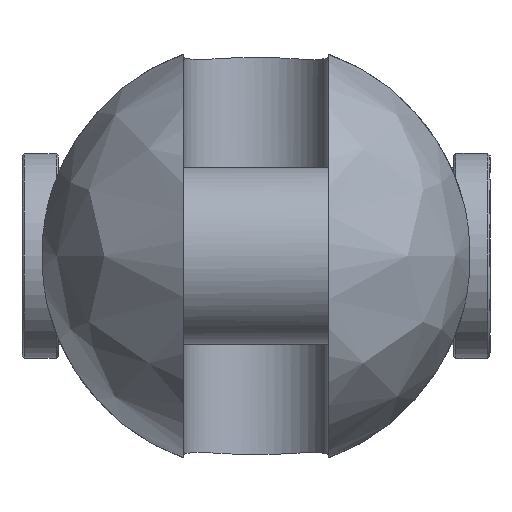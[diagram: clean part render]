
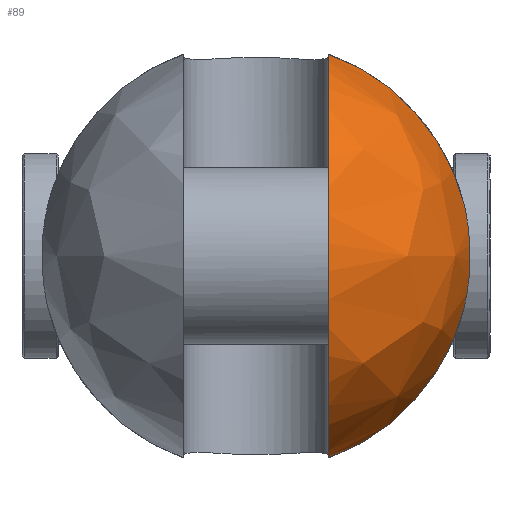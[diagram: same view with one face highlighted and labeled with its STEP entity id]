
A CAD part, left-side view. The second image highlights one B-rep face of the part: STEP entity #89.
In plain terms, the highlighted free-form (B-spline) face has degree [2, 2] with [9, 5] control points.
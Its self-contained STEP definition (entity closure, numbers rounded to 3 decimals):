
#89=ADVANCED_FACE('',(#164),#1306,.T.);
#164=FACE_OUTER_BOUND('',#249,.T.);
#249=EDGE_LOOP('',(#583,#584,#585,#586));
#583=ORIENTED_EDGE('',*,*,#811,.T.);
#584=ORIENTED_EDGE('',*,*,#835,.F.);
#585=ORIENTED_EDGE('',*,*,#847,.T.);
#586=ORIENTED_EDGE('',*,*,#827,.F.);
#811=EDGE_CURVE('',#1192,#1191,#1045,.T.);
#827=EDGE_CURVE('',#1192,#1204,#1055,.T.);
#835=EDGE_CURVE('',#1211,#1191,#1056,.T.);
#847=EDGE_CURVE('',#1211,#1204,#963,.T.);
#963=B_SPLINE_CURVE_WITH_KNOTS('',3,(#3144,#3145,#3146,#3147,#3148,#3149,
#3150,#3151,#3152,#3153,#3154,#3155,#3156,#3157),.UNSPECIFIED.,.F.,.F.,
(4,2,2,2,2,2,4),(0.,1.446,6.787,12.128,
17.469,22.81,24.256),.UNSPECIFIED.);
#1045=(
BOUNDED_CURVE()
B_SPLINE_CURVE(2,(#2920,#2921,#2922,#2923,#2924),.UNSPECIFIED.,.F.,.F.)
B_SPLINE_CURVE_WITH_KNOTS((3,2,3),(-138.836,-69.418,
0.),.UNSPECIFIED.)
CURVE()
GEOMETRIC_REPRESENTATION_ITEM()
RATIONAL_B_SPLINE_CURVE((1.,0.707,1.,0.707,1.))
REPRESENTATION_ITEM('')
);
#1055=(
BOUNDED_CURVE()
B_SPLINE_CURVE(2,(#3014,#3015,#3016),.UNSPECIFIED.,.F.,.F.)
B_SPLINE_CURVE_WITH_KNOTS((3,3),(0.,45.894),.UNSPECIFIED.)
CURVE()
GEOMETRIC_REPRESENTATION_ITEM()
RATIONAL_B_SPLINE_CURVE((1.,0.883,1.))
REPRESENTATION_ITEM('')
);
#1056=(
BOUNDED_CURVE()
B_SPLINE_CURVE(2,(#3071,#3072,#3073),.UNSPECIFIED.,.F.,.F.)
B_SPLINE_CURVE_WITH_KNOTS((3,3),(0.,45.894),.UNSPECIFIED.)
CURVE()
GEOMETRIC_REPRESENTATION_ITEM()
RATIONAL_B_SPLINE_CURVE((1.,0.883,1.))
REPRESENTATION_ITEM('')
);
#1191=VERTEX_POINT('',#2837);
#1192=VERTEX_POINT('',#2838);
#1204=VERTEX_POINT('',#2850);
#1211=VERTEX_POINT('',#2857);
#1306=(
BOUNDED_SURFACE()
B_SPLINE_SURFACE(2,2,((#2445,#2446,#2447,#2448,#2449),(#2450,#2451,#2452,
#2453,#2454),(#2455,#2456,#2457,#2458,#2459),(#2460,#2461,#2462,#2463,#2464),
(#2465,#2466,#2467,#2468,#2469),(#2470,#2471,#2472,#2473,#2474),(#2475,
#2476,#2477,#2478,#2479),(#2480,#2481,#2482,#2483,#2484),(#2485,#2486,#2487,
#2488,#2489)),.UNSPECIFIED.,.T.,.F.,.F.)
B_SPLINE_SURFACE_WITH_KNOTS((3,2,2,2,3),(3,2,3),(0.,73.827,147.655,
221.482,295.31),(0.,73.827,147.655),
 .UNSPECIFIED.)
GEOMETRIC_REPRESENTATION_ITEM()
RATIONAL_B_SPLINE_SURFACE(((1.,0.707,1.,0.707,1.),
(0.707,0.5,0.707,0.5,0.707),(1.,0.707,
1.,0.707,1.),(0.707,0.5,0.707,0.5,0.707),
(1.,0.707,1.,0.707,1.),(0.707,0.5,0.707,
0.5,0.707),(1.,0.707,1.,0.707,1.),(0.707,
0.5,0.707,0.5,0.707),(1.,0.707,1.,0.707,
1.)))
REPRESENTATION_ITEM('')
SURFACE()
);
#2445=CARTESIAN_POINT('',(-67.5,0.,0.));
#2446=CARTESIAN_POINT('',(-67.5,47.,0.));
#2447=CARTESIAN_POINT('',(-20.5,47.,0.));
#2448=CARTESIAN_POINT('',(26.5,47.,0.));
#2449=CARTESIAN_POINT('',(26.5,0.,0.));
#2450=CARTESIAN_POINT('',(-67.5,0.,0.));
#2451=CARTESIAN_POINT('',(-67.5,47.,47.));
#2452=CARTESIAN_POINT('',(-20.5,47.,47.));
#2453=CARTESIAN_POINT('',(26.5,47.,47.));
#2454=CARTESIAN_POINT('',(26.5,0.,0.));
#2455=CARTESIAN_POINT('',(-67.5,0.,0.));
#2456=CARTESIAN_POINT('',(-67.5,0.,47.));
#2457=CARTESIAN_POINT('',(-20.5,0.,47.));
#2458=CARTESIAN_POINT('',(26.5,0.,47.));
#2459=CARTESIAN_POINT('',(26.5,0.,0.));
#2460=CARTESIAN_POINT('',(-67.5,0.,0.));
#2461=CARTESIAN_POINT('',(-67.5,-47.,47.));
#2462=CARTESIAN_POINT('',(-20.5,-47.,47.));
#2463=CARTESIAN_POINT('',(26.5,-47.,47.));
#2464=CARTESIAN_POINT('',(26.5,0.,0.));
#2465=CARTESIAN_POINT('',(-67.5,0.,0.));
#2466=CARTESIAN_POINT('',(-67.5,-47.,0.));
#2467=CARTESIAN_POINT('',(-20.5,-47.,0.));
#2468=CARTESIAN_POINT('',(26.5,-47.,0.));
#2469=CARTESIAN_POINT('',(26.5,0.,0.));
#2470=CARTESIAN_POINT('',(-67.5,0.,0.));
#2471=CARTESIAN_POINT('',(-67.5,-47.,-47.));
#2472=CARTESIAN_POINT('',(-20.5,-47.,-47.));
#2473=CARTESIAN_POINT('',(26.5,-47.,-47.));
#2474=CARTESIAN_POINT('',(26.5,0.,0.));
#2475=CARTESIAN_POINT('',(-67.5,0.,0.));
#2476=CARTESIAN_POINT('',(-67.5,0.,-47.));
#2477=CARTESIAN_POINT('',(-20.5,0.,-47.));
#2478=CARTESIAN_POINT('',(26.5,0.,-47.));
#2479=CARTESIAN_POINT('',(26.5,0.,0.));
#2480=CARTESIAN_POINT('',(-67.5,0.,0.));
#2481=CARTESIAN_POINT('',(-67.5,47.,-47.));
#2482=CARTESIAN_POINT('',(-20.5,47.,-47.));
#2483=CARTESIAN_POINT('',(26.5,47.,-47.));
#2484=CARTESIAN_POINT('',(26.5,0.,0.));
#2485=CARTESIAN_POINT('',(-67.5,0.,0.));
#2486=CARTESIAN_POINT('',(-67.5,47.,0.));
#2487=CARTESIAN_POINT('',(-20.5,47.,0.));
#2488=CARTESIAN_POINT('',(26.5,47.,0.));
#2489=CARTESIAN_POINT('',(26.5,0.,0.));
#2837=CARTESIAN_POINT('',(-20.5,-16.,-44.193));
#2838=CARTESIAN_POINT('',(-20.5,-16.,44.193));
#2850=CARTESIAN_POINT('',(-20.5,-45.574,11.489));
#2857=CARTESIAN_POINT('',(-20.5,-45.574,-11.489));
#2920=CARTESIAN_POINT('',(-20.5,-16.,44.193));
#2921=CARTESIAN_POINT('',(-64.693,-16.,44.193));
#2922=CARTESIAN_POINT('',(-64.693,-16.,0.));
#2923=CARTESIAN_POINT('',(-64.693,-16.,-44.193));
#2924=CARTESIAN_POINT('',(-20.5,-16.,-44.193));
#3014=CARTESIAN_POINT('',(-20.5,-16.,44.193));
#3015=CARTESIAN_POINT('',(-20.5,-39.472,35.695));
#3016=CARTESIAN_POINT('',(-20.5,-45.574,11.489));
#3071=CARTESIAN_POINT('',(-20.5,-45.574,-11.489));
#3072=CARTESIAN_POINT('',(-20.5,-39.472,-35.695));
#3073=CARTESIAN_POINT('',(-20.5,-16.,-44.193));
#3144=CARTESIAN_POINT('',(-20.5,-45.574,-11.489));
#3145=CARTESIAN_POINT('',(-20.733,-45.679,-11.073));
#3146=CARTESIAN_POINT('',(-20.954,-45.778,-10.65));
#3147=CARTESIAN_POINT('',(-21.93,-46.214,-8.628));
#3148=CARTESIAN_POINT('',(-22.523,-46.475,-6.936));
#3149=CARTESIAN_POINT('',(-23.308,-46.82,-3.482));
#3150=CARTESIAN_POINT('',(-23.5,-46.904,-1.721));
#3151=CARTESIAN_POINT('',(-23.5,-46.904,1.721));
#3152=CARTESIAN_POINT('',(-23.308,-46.82,3.482));
#3153=CARTESIAN_POINT('',(-22.523,-46.475,6.936));
#3154=CARTESIAN_POINT('',(-21.93,-46.214,8.628));
#3155=CARTESIAN_POINT('',(-20.954,-45.778,10.65));
#3156=CARTESIAN_POINT('',(-20.733,-45.679,11.073));
#3157=CARTESIAN_POINT('',(-20.5,-45.574,11.489));
